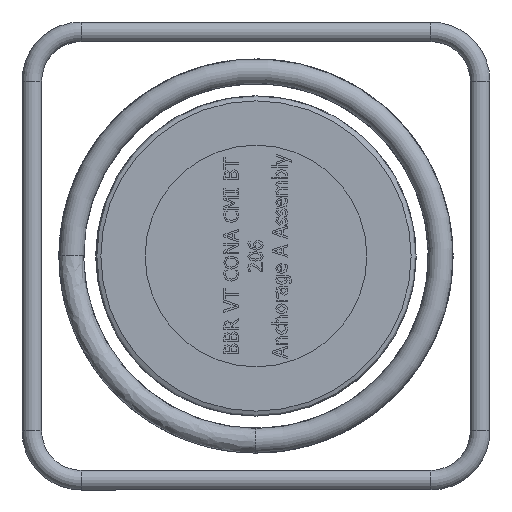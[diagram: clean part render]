
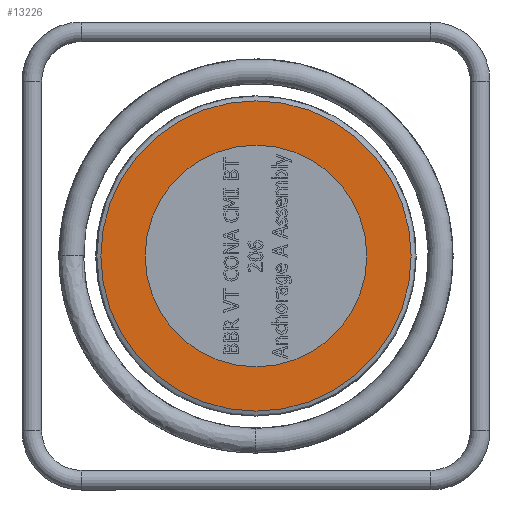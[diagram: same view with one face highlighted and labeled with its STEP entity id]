
A CAD part, left-side view. The second image highlights one B-rep face of the part: STEP entity #13226.
In plain terms, the highlighted planar face has unit normal (-1, 0, 0).
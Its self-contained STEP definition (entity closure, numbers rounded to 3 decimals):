
#3368=PLANE('',#13686);
#3476=FACE_BOUND('',#4902,.T.);
#4119=FACE_OUTER_BOUND('',#4901,.T.);
#4901=EDGE_LOOP('',(#11433));
#4902=EDGE_LOOP('',(#11434));
#5083=CIRCLE('',#13675,45.);
#5092=CIRCLE('',#13687,63.);
#6270=VERTEX_POINT('',#22911);
#6283=VERTEX_POINT('',#22965);
#8012=EDGE_CURVE('',#6270,#6270,#5083,.T.);
#8025=EDGE_CURVE('',#6283,#6283,#5092,.T.);
#11433=ORIENTED_EDGE('',*,*,#8025,.F.);
#11434=ORIENTED_EDGE('',*,*,#8012,.T.);
#13226=ADVANCED_FACE('',(#4119,#3476),#3368,.T.);
#13675=AXIS2_PLACEMENT_3D('',#22912,#15549,#15550);
#13686=AXIS2_PLACEMENT_3D('',#22964,#15574,#15575);
#13687=AXIS2_PLACEMENT_3D('',#22966,#15576,#15577);
#15549=DIRECTION('center_axis',(1.,0.,0.));
#15550=DIRECTION('ref_axis',(0.,-1.,0.));
#15574=DIRECTION('center_axis',(-1.,0.,0.));
#15575=DIRECTION('ref_axis',(0.,-1.,0.));
#15576=DIRECTION('center_axis',(1.,0.,0.));
#15577=DIRECTION('ref_axis',(0.,0.,
1.));
#22911=CARTESIAN_POINT('',(-92.28,0.,-45.));
#22912=CARTESIAN_POINT('Origin',(-92.28,0.,
0.));
#22964=CARTESIAN_POINT('Origin',(-92.28,0.,
-50.5));
#22965=CARTESIAN_POINT('',(-92.28,0.,-63.));
#22966=CARTESIAN_POINT('Origin',(-92.28,0.,
0.));
